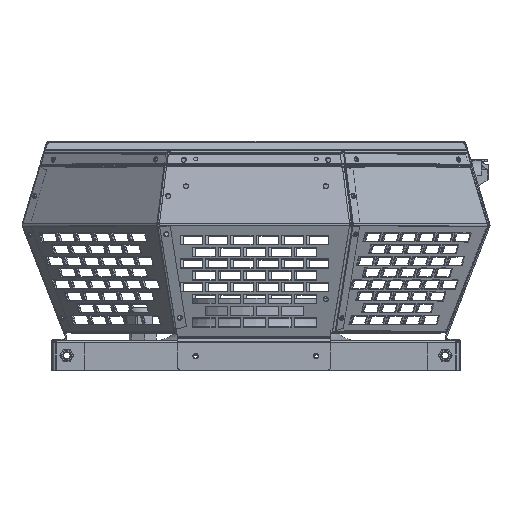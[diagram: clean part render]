
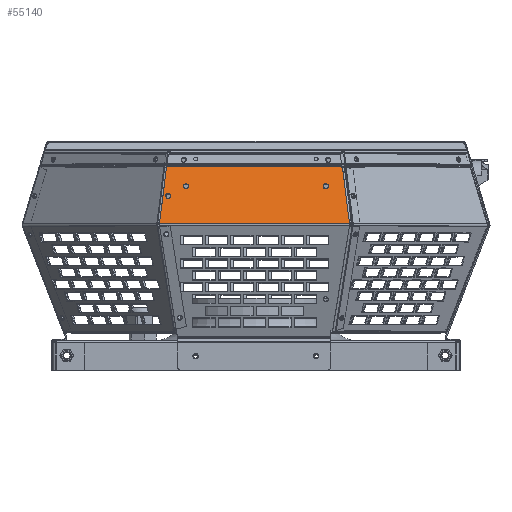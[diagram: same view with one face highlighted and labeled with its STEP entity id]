
A CAD part, top view. The second image highlights one B-rep face of the part: STEP entity #55140.
In plain terms, the highlighted planar face has unit normal (0, 0.288, 0.958).
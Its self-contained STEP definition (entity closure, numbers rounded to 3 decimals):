
#436 = EDGE_CURVE ( 'NONE', #10302, #41665, #1434, .T. ) ;
#620 = CARTESIAN_POINT ( 'NONE',  ( -72.783, 120.662, 187.068 ) ) ;
#920 = DIRECTION ( 'NONE',  ( 0., 0.958, -0.288 ) ) ;
#1004 = DIRECTION ( 'NONE',  ( 0.119, -0.951, 0.286 ) ) ;
#1081 = CARTESIAN_POINT ( 'NONE',  ( 71.739, 144.572, 179.872 ) ) ;
#1434 = LINE ( 'NONE', #25650, #44743 ) ;
#1481 = ORIENTED_EDGE ( 'NONE', *, *, #62503, .F. ) ;
#1879 = AXIS2_PLACEMENT_3D ( 'NONE', #71929, #28577, #47299 ) ;
#2274 = VECTOR ( 'NONE', #62242, 1000. ) ;
#3068 = CARTESIAN_POINT ( 'NONE',  ( 71.183, 144.999, 179.744 ) ) ;
#3784 = CARTESIAN_POINT ( 'NONE',  ( 79.94, 144.999, 179.744 ) ) ;
#4056 = FACE_BOUND ( 'NONE', #80605, .T. ) ;
#4481 = ORIENTED_EDGE ( 'NONE', *, *, #73742, .T. ) ;
#4636 = CARTESIAN_POINT ( 'NONE',  ( -58.06, 130.666, 184.057 ) ) ;
#4795 = CIRCLE ( 'NONE', #22137, 2.1 ) ;
#6582 = CARTESIAN_POINT ( 'NONE',  ( 71.236, 144.572, 179.872 ) ) ;
#7729 = DIRECTION ( 'NONE',  ( 0., 0.958, -0.288 ) ) ;
#10302 = VERTEX_POINT ( 'NONE', #3068 ) ;
#10999 = VECTOR ( 'NONE', #16716, 1000. ) ;
#12203 = ORIENTED_EDGE ( 'NONE', *, *, #64374, .T. ) ;
#14270 = DIRECTION ( 'NONE',  ( 0., -0.288, -0.958 ) ) ;
#14396 = VECTOR ( 'NONE', #80110, 1000. ) ;
#15437 = ORIENTED_EDGE ( 'NONE', *, *, #77832, .T. ) ;
#16114 = EDGE_CURVE ( 'NONE', #43856, #74540, #55158, .T. ) ;
#16574 = CARTESIAN_POINT ( 'NONE',  ( 79.94, 97.017, 194.185 ) ) ;
#16716 = DIRECTION ( 'NONE',  ( -0.007, -0.958, 0.288 ) ) ;
#18418 = CARTESIAN_POINT ( 'NONE',  ( 57.94, 128.655, 184.663 ) ) ;
#19005 = CARTESIAN_POINT ( 'NONE',  ( -72.783, 118.651, 187.673 ) ) ;
#19070 = DIRECTION ( 'NONE',  ( 0.119, 0.951, -0.286 ) ) ;
#20069 = DIRECTION ( 'NONE',  ( 0., 0.288, 0.958 ) ) ;
#21632 = VERTEX_POINT ( 'NONE', #4636 ) ;
#21754 = VECTOR ( 'NONE', #48199, 1000. ) ;
#22137 = AXIS2_PLACEMENT_3D ( 'NONE', #18418, #20069, #76358 ) ;
#22877 = CARTESIAN_POINT ( 'NONE',  ( -74.177, 144.999, 179.744 ) ) ;
#22974 = LINE ( 'NONE', #48377, #10999 ) ;
#23398 = AXIS2_PLACEMENT_3D ( 'NONE', #16574, #52855, #28293 ) ;
#25198 = DIRECTION ( 'NONE',  ( 0., -0.288, -0.958 ) ) ;
#25330 = CARTESIAN_POINT ( 'NONE',  ( -74.19, 144.896, 179.775 ) ) ;
#25650 = CARTESIAN_POINT ( 'NONE',  ( 77.203, 96.704, 194.279 ) ) ;
#26503 = DIRECTION ( 'NONE',  ( 0., -0.288, -0.958 ) ) ;
#27038 = VECTOR ( 'NONE', #32826, 1000. ) ;
#27119 = ORIENTED_EDGE ( 'NONE', *, *, #47070, .F. ) ;
#28109 = CARTESIAN_POINT ( 'NONE',  ( 77.555, 97.923, 193.912 ) ) ;
#28293 = DIRECTION ( 'NONE',  ( 0., 0.958, -0.288 ) ) ;
#28577 = DIRECTION ( 'NONE',  ( 0., -0.288, -0.958 ) ) ;
#31424 = CARTESIAN_POINT ( 'NONE',  ( 57.94, 130.666, 184.057 ) ) ;
#31998 = AXIS2_PLACEMENT_3D ( 'NONE', #82326, #25198, #57678 ) ;
#32409 = CARTESIAN_POINT ( 'NONE',  ( -58.06, 126.644, 185.268 ) ) ;
#32826 = DIRECTION ( 'NONE',  ( 1., 0., 0. ) ) ;
#32852 = DIRECTION ( 'NONE',  ( 0., 0.958, -0.288 ) ) ;
#33081 = EDGE_CURVE ( 'NONE', #43856, #57613, #22974, .T. ) ;
#33228 = CARTESIAN_POINT ( 'NONE',  ( -72.783, 122.673, 186.463 ) ) ;
#34601 = ORIENTED_EDGE ( 'NONE', *, *, #78503, .F. ) ;
#34640 = AXIS2_PLACEMENT_3D ( 'NONE', #39119, #64500, #32852 ) ;
#37772 = CIRCLE ( 'NONE', #55059, 2.1 ) ;
#37919 = CARTESIAN_POINT ( 'NONE',  ( -80.06, 97.804, 193.948 ) ) ;
#39119 = CARTESIAN_POINT ( 'NONE',  ( 57.94, 128.655, 184.663 ) ) ;
#39877 = ORIENTED_EDGE ( 'NONE', *, *, #16114, .T. ) ;
#40345 = VERTEX_POINT ( 'NONE', #32409 ) ;
#40395 = VERTEX_POINT ( 'NONE', #33228 ) ;
#40746 = LINE ( 'NONE', #41583, #21754 ) ;
#41479 = VECTOR ( 'NONE', #19070, 1000. ) ;
#41583 = CARTESIAN_POINT ( 'NONE',  ( 79.94, 97.804, 193.948 ) ) ;
#41665 = VERTEX_POINT ( 'NONE', #64452 ) ;
#41740 = EDGE_CURVE ( 'NONE', #78011, #72178, #63241, .T. ) ;
#41912 = VERTEX_POINT ( 'NONE', #79489 ) ;
#43856 = VERTEX_POINT ( 'NONE', #28109 ) ;
#44301 = EDGE_LOOP ( 'NONE', ( #4481, #12203 ) ) ;
#44587 = ORIENTED_EDGE ( 'NONE', *, *, #78654, .F. ) ;
#44743 = VECTOR ( 'NONE', #1004, 1000. ) ;
#44924 = CARTESIAN_POINT ( 'NONE',  ( 77.554, 97.804, 193.948 ) ) ;
#46601 = FACE_BOUND ( 'NONE', #64252, .T. ) ;
#47070 = EDGE_CURVE ( 'NONE', #69890, #41912, #49223, .T. ) ;
#47299 = DIRECTION ( 'NONE',  ( 0., 0.958, -0.288 ) ) ;
#48199 = DIRECTION ( 'NONE',  ( -1., 0., 0. ) ) ;
#48377 = CARTESIAN_POINT ( 'NONE',  ( 77.54, 96.026, 194.483 ) ) ;
#49223 = CIRCLE ( 'NONE', #34640, 2.1 ) ;
#50538 = CARTESIAN_POINT ( 'NONE',  ( 77.603, 97.537, 194.028 ) ) ;
#52855 = DIRECTION ( 'NONE',  ( 0., -0.288, -0.958 ) ) ;
#54639 = LINE ( 'NONE', #3784, #14396 ) ;
#55059 = AXIS2_PLACEMENT_3D ( 'NONE', #65554, #14270, #920 ) ;
#55140 = ADVANCED_FACE ( 'NONE', ( #79970, #46601, #73683, #4056 ), #65784, .F. ) ;
#55149 = CIRCLE ( 'NONE', #1879, 2.1 ) ;
#55158 = LINE ( 'NONE', #50538, #2274 ) ;
#57613 = VERTEX_POINT ( 'NONE', #44924 ) ;
#57678 = DIRECTION ( 'NONE',  ( 0., 0.958, -0.288 ) ) ;
#60746 = AXIS2_PLACEMENT_3D ( 'NONE', #620, #26503, #7729 ) ;
#61471 = ORIENTED_EDGE ( 'NONE', *, *, #33081, .F. ) ;
#62242 = DIRECTION ( 'NONE',  ( -0.119, 0.951, -0.286 ) ) ;
#62503 = EDGE_CURVE ( 'NONE', #41912, #69890, #4795, .T. ) ;
#63241 = LINE ( 'NONE', #25330, #41479 ) ;
#64252 = EDGE_LOOP ( 'NONE', ( #79702, #15437 ) ) ;
#64374 = EDGE_CURVE ( 'NONE', #77273, #40395, #80759, .T. ) ;
#64452 = CARTESIAN_POINT ( 'NONE',  ( 71.236, 144.572, 179.872 ) ) ;
#64500 = DIRECTION ( 'NONE',  ( 0., 0.288, 0.958 ) ) ;
#65554 = CARTESIAN_POINT ( 'NONE',  ( -58.06, 128.655, 184.663 ) ) ;
#65784 = PLANE ( 'NONE',  #23398 ) ;
#65989 = ORIENTED_EDGE ( 'NONE', *, *, #41740, .F. ) ;
#66862 = EDGE_CURVE ( 'NONE', #21632, #40345, #55149, .T. ) ;
#69890 = VERTEX_POINT ( 'NONE', #31424 ) ;
#71742 = EDGE_CURVE ( 'NONE', #10302, #72178, #54639, .T. ) ;
#71902 = CIRCLE ( 'NONE', #31998, 2.1 ) ;
#71929 = CARTESIAN_POINT ( 'NONE',  ( -58.06, 128.655, 184.663 ) ) ;
#71971 = ORIENTED_EDGE ( 'NONE', *, *, #71742, .T. ) ;
#72178 = VERTEX_POINT ( 'NONE', #22877 ) ;
#73683 = FACE_OUTER_BOUND ( 'NONE', #81454, .T. ) ;
#73742 = EDGE_CURVE ( 'NONE', #40395, #77273, #71902, .T. ) ;
#74540 = VERTEX_POINT ( 'NONE', #1081 ) ;
#75814 = ORIENTED_EDGE ( 'NONE', *, *, #436, .F. ) ;
#76358 = DIRECTION ( 'NONE',  ( 0., 0.958, -0.288 ) ) ;
#77042 = LINE ( 'NONE', #6582, #27038 ) ;
#77273 = VERTEX_POINT ( 'NONE', #19005 ) ;
#77832 = EDGE_CURVE ( 'NONE', #40345, #21632, #37772, .T. ) ;
#78011 = VERTEX_POINT ( 'NONE', #37919 ) ;
#78503 = EDGE_CURVE ( 'NONE', #41665, #74540, #77042, .T. ) ;
#78654 = EDGE_CURVE ( 'NONE', #57613, #78011, #40746, .T. ) ;
#79489 = CARTESIAN_POINT ( 'NONE',  ( 57.94, 126.644, 185.268 ) ) ;
#79702 = ORIENTED_EDGE ( 'NONE', *, *, #66862, .T. ) ;
#79970 = FACE_BOUND ( 'NONE', #44301, .T. ) ;
#80110 = DIRECTION ( 'NONE',  ( -1., 0., 0. ) ) ;
#80605 = EDGE_LOOP ( 'NONE', ( #27119, #1481 ) ) ;
#80759 = CIRCLE ( 'NONE', #60746, 2.1 ) ;
#81454 = EDGE_LOOP ( 'NONE', ( #39877, #34601, #75814, #71971, #65989, #44587, #61471 ) ) ;
#82326 = CARTESIAN_POINT ( 'NONE',  ( -72.783, 120.662, 187.068 ) ) ;
